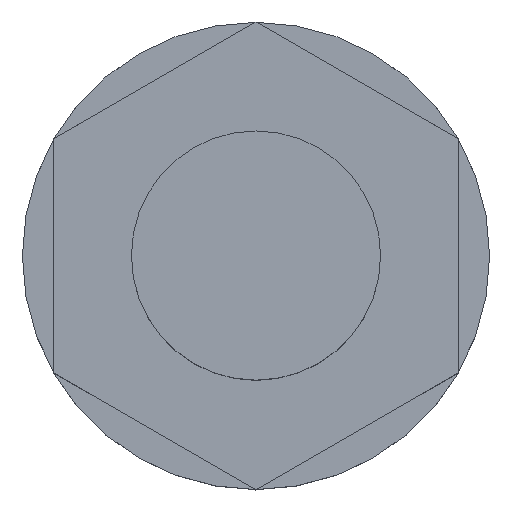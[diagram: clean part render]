
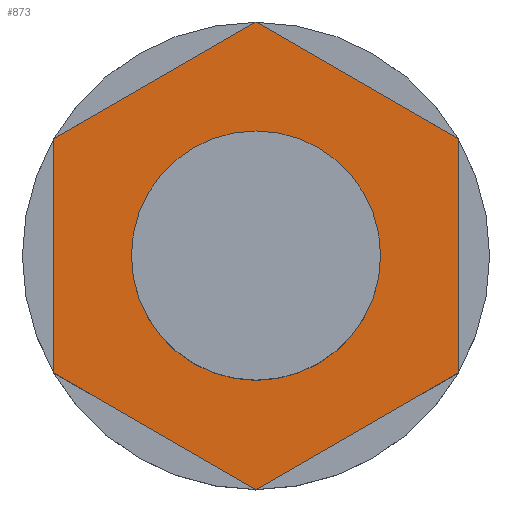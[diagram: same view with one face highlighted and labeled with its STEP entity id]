
A CAD part, top view. The second image highlights one B-rep face of the part: STEP entity #873.
In plain terms, the highlighted planar face has unit normal (0, 0, 1) as drawn and (-1, 0, 0) by its records, which use the part's own axes.
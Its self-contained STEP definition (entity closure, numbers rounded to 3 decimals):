
#4 = CARTESIAN_POINT ( 'NONE',  ( -5.05, 0., 4. ) ) ;
#42 = CIRCLE ( 'NONE', #43, 4. ) ;
#43 = AXIS2_PLACEMENT_3D ( 'NONE', #44, #45, #46 ) ;
#44 = CARTESIAN_POINT ( 'NONE',  ( -5.05, 0., 0. ) ) ;
#45 = DIRECTION ( 'NONE',  ( -1., 0., 0. ) ) ;
#46 = DIRECTION ( 'NONE',  ( 0., 0., 1. ) ) ;
#63 = LINE ( 'NONE', #64, #65 ) ;
#64 = CARTESIAN_POINT ( 'NONE',  ( -5.05, -3.753, -6.5 ) ) ;
#65 = VECTOR ( 'NONE', #66, 1000. ) ;
#66 = DIRECTION ( 'NONE',  ( 0., -0.5, 0.866 ) ) ;
#101 = CARTESIAN_POINT ( 'NONE',  ( -5.05, 3.753, 6.5 ) ) ;
#134 = CARTESIAN_POINT ( 'NONE',  ( -5.05, -7.506, 0. ) ) ;
#326 = ORIENTED_EDGE ( 'NONE', *, *, #1974, .T. ) ;
#644 = EDGE_CURVE ( 'NONE', #948, #763, #1314, .T. ) ;
#701 = EDGE_CURVE ( 'NONE', #771, #948, #1545, .T. ) ;
#709 = VERTEX_POINT ( 'NONE', #1570 ) ;
#746 = VERTEX_POINT ( 'NONE', #1837 ) ;
#763 = VERTEX_POINT ( 'NONE', #101 ) ;
#771 = VERTEX_POINT ( 'NONE', #134 ) ;
#783 = ORIENTED_EDGE ( 'NONE', *, *, #2005, .T. ) ;
#849 = ORIENTED_EDGE ( 'NONE', *, *, #644, .T. ) ;
#859 = ORIENTED_EDGE ( 'NONE', *, *, #1910, .T. ) ;
#873 = ADVANCED_FACE ( 'NONE', ( #1355, #1356 ), #1361, .T. ) ;
#892 = EDGE_CURVE ( 'NONE', #746, #2010, #1459, .T. ) ;
#910 = EDGE_LOOP ( 'NONE', ( #1996, #849, #783, #859, #1879, #326 ) ) ;
#948 = VERTEX_POINT ( 'NONE', #1715 ) ;
#971 = LINE ( 'NONE', #976, #977 ) ;
#976 = CARTESIAN_POINT ( 'NONE',  ( -5.05, 3.753, 6.5 ) ) ;
#977 = VECTOR ( 'NONE', #978, 1000. ) ;
#978 = DIRECTION ( 'NONE',  ( 0., 0.5, -0.866 ) ) ;
#979 = CIRCLE ( 'NONE', #980, 4. ) ;
#980 = AXIS2_PLACEMENT_3D ( 'NONE', #981, #982, #983 ) ;
#981 = CARTESIAN_POINT ( 'NONE',  ( -5.05, 0., 0. ) ) ;
#982 = DIRECTION ( 'NONE',  ( -1., 0., 0. ) ) ;
#983 = DIRECTION ( 'NONE',  ( 0., 0., 1. ) ) ;
#1012 = CARTESIAN_POINT ( 'NONE',  ( -5.05, -3.753, -6.5 ) ) ;
#1140 = VERTEX_POINT ( 'NONE', #1836 ) ;
#1212 = VERTEX_POINT ( 'NONE', #4 ) ;
#1230 = LINE ( 'NONE', #1231, #1235 ) ;
#1231 = CARTESIAN_POINT ( 'NONE',  ( -5.05, 7.506, 0. ) ) ;
#1235 = VECTOR ( 'NONE', #1236, 1000. ) ;
#1236 = DIRECTION ( 'NONE',  ( 0., -0.5, -0.866 ) ) ;
#1252 = EDGE_CURVE ( 'NONE', #709, #1212, #42, .T. ) ;
#1314 = LINE ( 'NONE', #1315, #1316 ) ;
#1315 = CARTESIAN_POINT ( 'NONE',  ( -5.05, -3.753, 6.5 ) ) ;
#1316 = VECTOR ( 'NONE', #1317, 1000. ) ;
#1317 = DIRECTION ( 'NONE',  ( 0., 1., 0. ) ) ;
#1355 = FACE_OUTER_BOUND ( 'NONE', #910, .T. ) ;
#1356 = FACE_BOUND ( 'NONE', #1537, .T. ) ;
#1361 = PLANE ( 'NONE',  #1362 ) ;
#1362 = AXIS2_PLACEMENT_3D ( 'NONE', #1363, #1364, #1365 ) ;
#1363 = CARTESIAN_POINT ( 'NONE',  ( -5.05, 0., 13. ) ) ;
#1364 = DIRECTION ( 'NONE',  ( -1., 0., 0. ) ) ;
#1365 = DIRECTION ( 'NONE',  ( 0., 0., 1. ) ) ;
#1459 = LINE ( 'NONE', #1460, #1461 ) ;
#1460 = CARTESIAN_POINT ( 'NONE',  ( -5.05, 3.753, -6.5 ) ) ;
#1461 = VECTOR ( 'NONE', #1462, 1000. ) ;
#1462 = DIRECTION ( 'NONE',  ( 0., -1., 0. ) ) ;
#1537 = EDGE_LOOP ( 'NONE', ( #1884, #2014 ) ) ;
#1545 = LINE ( 'NONE', #1546, #1547 ) ;
#1546 = CARTESIAN_POINT ( 'NONE',  ( -5.05, -7.506, 0. ) ) ;
#1547 = VECTOR ( 'NONE', #1548, 1000. ) ;
#1548 = DIRECTION ( 'NONE',  ( 0., 0.5, 0.866 ) ) ;
#1570 = CARTESIAN_POINT ( 'NONE',  ( -5.05, 0., -4. ) ) ;
#1715 = CARTESIAN_POINT ( 'NONE',  ( -5.05, -3.753, 6.5 ) ) ;
#1836 = CARTESIAN_POINT ( 'NONE',  ( -5.05, 7.506, 0. ) ) ;
#1837 = CARTESIAN_POINT ( 'NONE',  ( -5.05, 3.753, -6.5 ) ) ;
#1879 = ORIENTED_EDGE ( 'NONE', *, *, #892, .T. ) ;
#1884 = ORIENTED_EDGE ( 'NONE', *, *, #1252, .F. ) ;
#1910 = EDGE_CURVE ( 'NONE', #1140, #746, #1230, .T. ) ;
#1974 = EDGE_CURVE ( 'NONE', #2010, #771, #63, .T. ) ;
#1996 = ORIENTED_EDGE ( 'NONE', *, *, #701, .T. ) ;
#2005 = EDGE_CURVE ( 'NONE', #763, #1140, #971, .T. ) ;
#2006 = EDGE_CURVE ( 'NONE', #1212, #709, #979, .T. ) ;
#2010 = VERTEX_POINT ( 'NONE', #1012 ) ;
#2014 = ORIENTED_EDGE ( 'NONE', *, *, #2006, .F. ) ;
